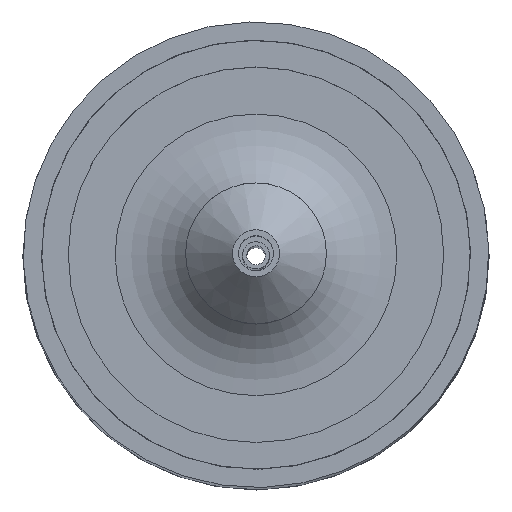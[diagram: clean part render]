
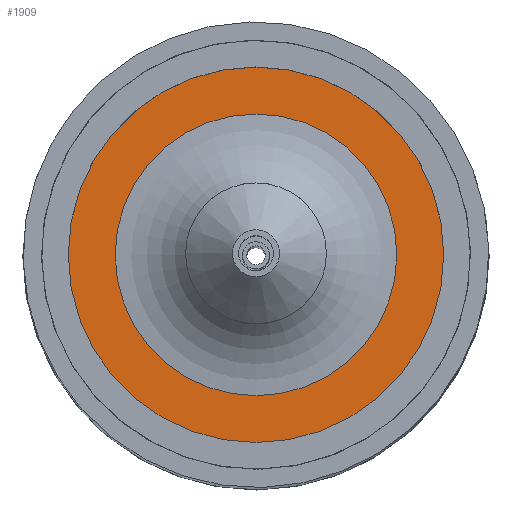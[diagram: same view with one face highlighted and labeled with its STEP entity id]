
A CAD part, top view. The second image highlights one B-rep face of the part: STEP entity #1909.
In plain terms, the highlighted planar face has unit normal (0, 0, 1).
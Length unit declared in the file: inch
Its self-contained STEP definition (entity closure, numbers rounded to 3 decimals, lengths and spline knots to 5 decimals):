
#1858=CARTESIAN_POINT('',(0.375,0.,0.28));
#1859=VERTEX_POINT('',#1858);
#1860=CARTESIAN_POINT('',(0.0,0.0,0.28));
#1861=DIRECTION('',(0.0,0.0,1.0));
#1862=DIRECTION('',(-1.0,0.0,0.0));
#1863=AXIS2_PLACEMENT_3D('',#1860,#1861,#1862);
#1864=CIRCLE('',#1863,0.375);
#1865=EDGE_CURVE('',#1859,#1859,#1864,.T.);
#1890=CARTESIAN_POINT('',(0.,0.0,0.28));
#1891=DIRECTION('',(0.0,0.0,1.0));
#1892=DIRECTION('',(1.0,0.0,0.0));
#1893=AXIS2_PLACEMENT_3D('',#1890,#1891,#1892);
#1894=PLANE('',#1893);
#1895=CARTESIAN_POINT('',(0.5,0.0,0.28));
#1896=VERTEX_POINT('',#1895);
#1897=CARTESIAN_POINT('',(0.0,0.0,0.28));
#1898=DIRECTION('',(0.0,0.0,1.0));
#1899=DIRECTION('',(1.0,0.0,0.0));
#1900=AXIS2_PLACEMENT_3D('',#1897,#1898,#1899);
#1901=CIRCLE('',#1900,0.5);
#1902=EDGE_CURVE('',#1896,#1896,#1901,.T.);
#1903=ORIENTED_EDGE('',*,*,#1902,.T.);
#1904=EDGE_LOOP('',(#1903));
#1905=FACE_OUTER_BOUND('',#1904,.T.);
#1906=ORIENTED_EDGE('',*,*,#1865,.F.);
#1907=EDGE_LOOP('',(#1906));
#1908=FACE_BOUND('',#1907,.T.);
#1909=ADVANCED_FACE('',(#1905,#1908),#1894,.T.);
